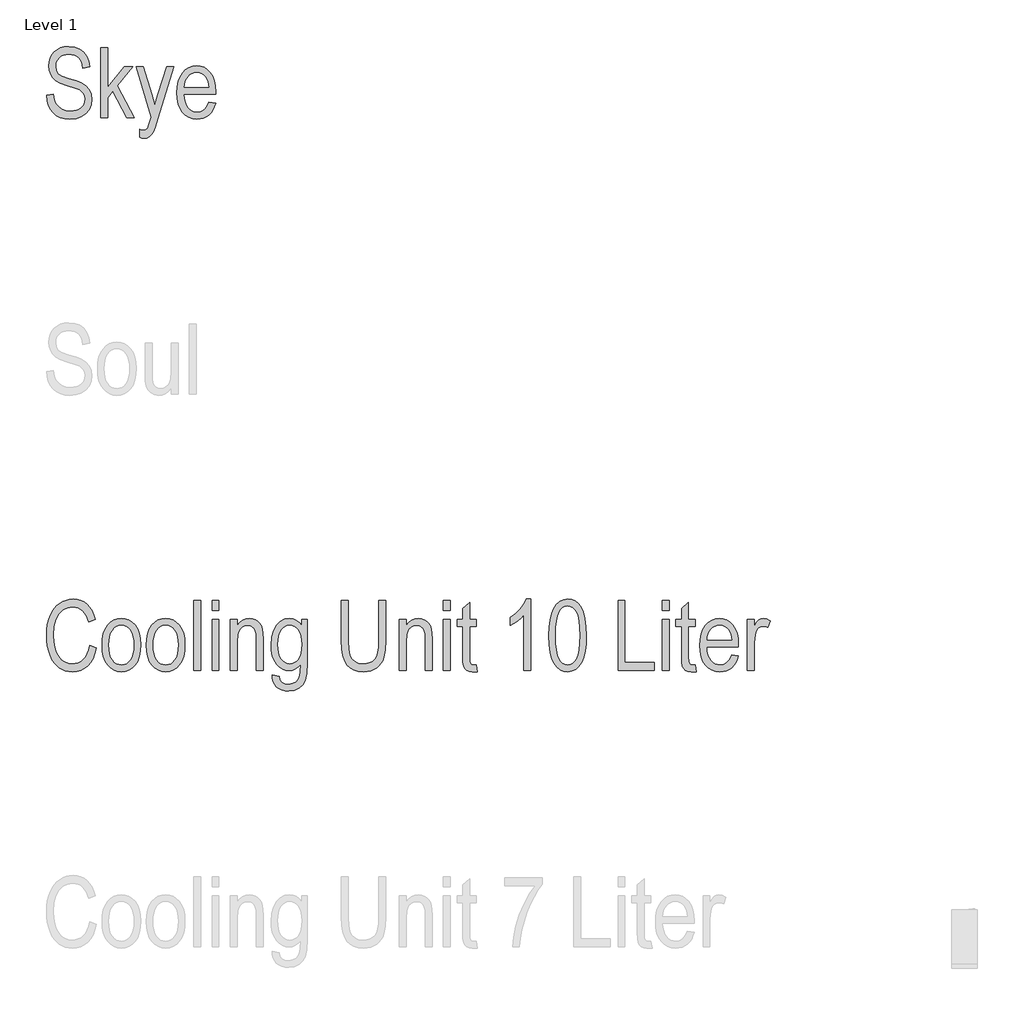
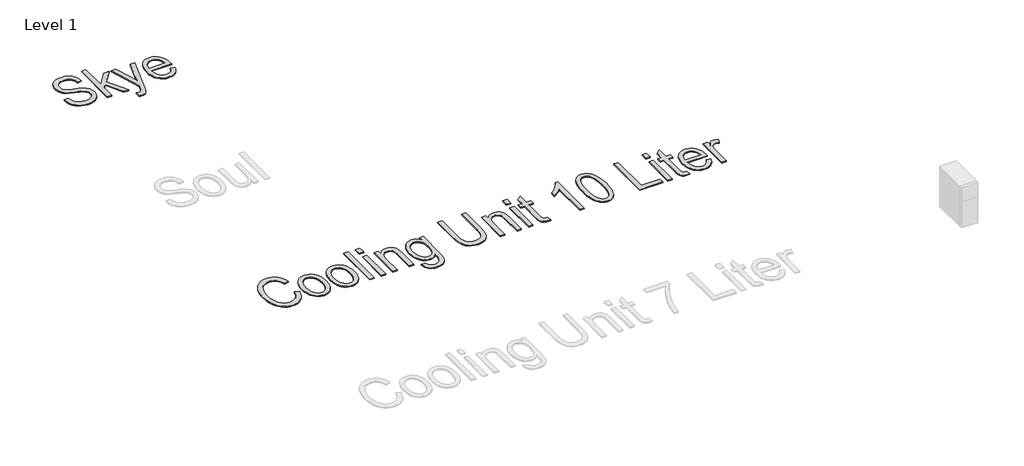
# One storey, part 2 of 3: 2 proxies.
"""IFC4 building model written with IfcOpenShell, lengths in millimetres."""

from ifc_helpers import new_model, si_unit, origin, origin_with_axes, place, context, project, spatial, polyline, outline, extrude, element, save

model = new_model("IFC4")

# Units and contexts
model_context = context("Model", 3, world=origin())
ifc_project = project(units=[si_unit("LENGTHUNIT", "METRE", prefix="MILLI")], contexts=[model_context])

# Site, building, storey
site = spatial("IfcSite", under=ifc_project)
building = spatial("IfcBuilding", under=site)
storey = spatial("IfcBuildingStorey", under=building, Name="Level 1", Elevation=0.0)

# Proxies
placement = place(None, origin())
element("IfcBuildingElementProxy", 1, Name="500mm", ObjectType="500mm", at=placement, inside=storey, context=model_context, shape_type="SweptSolid", body=[
    extrude(outline(polyline([(-29380.882871, 8787.0556777), (-29331.6607147, 8795.2593704), (-29324.7548718, 8756.0514874), (-29312.4974012, 8726.6175352), (-29294.3435265, 8704.473974), (-29269.7484711, 8687.1372639), (-29240.2023591, 8675.9373006), (-29207.1953141, 8672.2039795), (-29183.5976804, 8673.7061205), (-29162.7960318, 8678.2125435), (-29144.7903683, 8685.7232485), (-29129.58069, 8696.2382356), (-29117.4954649, 8709.1566482), (-29108.8631613, 8723.87763), (-29103.6837791, 8740.401181), (-29101.9573184, 8758.7273012), (-29104.4729038, 8779.8454009), (-29112.0196602, 8798.0793898), (-29124.6456561, 8813.3491538), (-29142.3989599, 8825.5745787), (-29174.4927031, 8838.7613738), (-29230.1400172, 8856.9152485), (-29281.1086628, 8875.1812831), (-29314.0355936, 8893.0627696), (-29335.2818759, 8913.1393848), (-29351.2085762, 8937.9908055), (-29361.1587582, 8967.008164), (-29364.4754856, 8999.5825923), (-29362.0480257, 9029.0646131), (-29354.7656461, 9055.7266144), (-29342.6283468, 9079.5685964), (-29325.6361278, 9100.590559), (-29304.534051, 9117.7510178), (-29280.0671784, 9130.0084884), (-29252.2355099, 9137.3629707), (-29221.0390456, 9139.8144649), (-29178.6265951, 9135.3440932), (-29141.8862291, 9121.9329784), (-29111.7793177, 9100.1739652), (-29089.2672312, 9070.6598988), (-29074.8787232, 9034.3361266), (-29069.1425475, 8992.1479958), (-29118.3647038, 8983.9443031), (-29121.7495282, 9007.3817084), (-29127.802155, 9027.5744892), (-29136.5225843, 9044.5226454), (-29147.9108159, 9058.226177), (-29161.9187815, 9068.797244), (-29178.4984124, 9076.3480061), (-29197.6497088, 9080.8784634), (-29219.3726705, 9082.3886158), (-29241.3760319, 9080.910509), (-29260.599431, 9076.4761888), (-29277.0428678, 9069.0856551), (-29290.7063424, 9058.7389078), (-29301.4456491, 9046.0448149), (-29309.1165825, 9031.6122442), (-29313.7191426, 9015.4411956), (-29315.2533292, 8997.5316692), (-29311.2796656, 8966.6075931), (-29299.3586746, 8943.5667529), (-29288.4471223, 8934.057199), (-29271.4789376, 8924.7559419), (-29219.3726705, 8906.7783184), (-29165.8243481, 8890.6272983), (-29131.054791, 8876.7835669), (-29096.9902388, 8854.5919371), (-29072.4752976, 8827.4973192), (-29057.6701959, 8795.1151649), (-29052.735162, 8757.0609262), (-29057.7983786, 8718.2375912), (-29072.9880284, 8683.0354176), (-29096.8780789, 8653.633511), (-29128.0424976, 8632.2109775), (-29166.3851474, 8619.1363422), (-29211.8098913, 8614.7781305), (-29248.1296578, 8617.6822697), (-29280.5638864, 8626.3946875), (-29309.1125768, 8640.9153839), (-29333.7757292, 8661.2443588), (-29353.7602131, 8686.5324018), (-29368.272898, 8715.9303027), (-29377.313784, 8749.4380613), (-29380.882871, 8787.0556777)])), origin_with_axes(), (0.0, 0.0, 1.0), 10.0),
    extrude(outline(polyline([(-28987.1056202, 8622.9818232), (-28987.1056202, 9131.6107721), (-28937.8834639, 9131.6107721), (-28937.8834639, 8844.0969787), (-28817.1353616, 8992.1479958), (-28756.1203969, 8992.1479958), (-28867.8957103, 8854.9925081), (-28745.0966848, 8622.9818232), (-28799.5743318, 8622.9818232), (-28901.0950293, 8814.6149579), (-28937.8834639, 8769.3664652), (-28937.8834639, 8622.9818232), (-28987.1056202, 8622.9818232)])), origin_with_axes(), (0.0, 0.0, 1.0), 10.0),
    extrude(outline(polyline([(-28708.1800676, 8483.5190468), (-28708.1800676, 8540.9448959), (-28694.2722448, 8534.7921264), (-28682.5435278, 8532.7412032), (-28669.4368469, 8534.535761), (-28658.8297285, 8539.9194343), (-28650.3055791, 8549.116543), (-28643.4478047, 8562.3514066), (-28622.8103902, 8628.7500446), (-28732.7911458, 8992.1479958), (-28681.7744316, 8992.1479958), (-28618.9649092, 8792.9520818), (-28597.3020331, 8713.3506258), (-28576.7928013, 8791.6702548), (-28513.086, 8992.1479958), (-28462.0692858, 8992.1479958), (-28575.3827916, 8616.8290536), (-28595.2030414, 8556.8555734), (-28610.312577, 8520.7561209), (-28623.9159659, 8499.9745008), (-28639.2177756, 8485.9545181), (-28656.4583486, 8477.9751451), (-28675.8780275, 8475.3153541), (-28691.0676773, 8477.3662773), (-28708.1800676, 8483.5190468)])), origin_with_axes(), (0.0, 0.0, 1.0), 10.0),
    extrude(outline(polyline([(-28207.7548113, 8737.8335213), (-28158.532655, 8729.6298286), (-28166.5360623, 8702.9197587), (-28177.2152834, 8679.7026674), (-28190.5703183, 8659.9785546), (-28206.6011671, 8643.7474204), (-28225.0114072, 8631.073356), (-28245.5046162, 8622.0204529), (-28268.080794, 8616.5887111), (-28292.7399407, 8614.7781305), (-28323.5598683, 8617.8264753), (-28351.2873884, 8626.9715097), (-28375.9225008, 8642.2132337), (-28397.4652056, 8663.5516474), (-28414.962144, 8690.650271), (-28427.4599571, 8723.1726251), (-28434.958645, 8761.1187097), (-28437.4582076, 8804.4885247), (-28434.9466279, 8849.4045435), (-28427.4118886, 8888.6564893), (-28414.8539899, 8922.2443621), (-28397.2729316, 8950.1681619), (-28375.8463923, 8972.1234548), (-28351.7520506, 8987.8058069), (-28324.9899066, 8997.2152181), (-28295.55996, 9000.3516885), (-28267.363772, 8997.3233723), (-28241.6110667, 8988.2384235), (-28218.301844, 8973.0968422), (-28197.4361041, 8951.8986284), (-28180.2476053, 8924.9642388), (-28167.9701062, 8892.6141302), (-28160.6036067, 8854.8483025), (-28158.1481069, 8811.6667559), (-28158.532655, 8795.2593704), (-28388.2360513, 8795.2593704), (-28385.0915695, 8764.7038196), (-28378.9908741, 8738.1539781), (-28369.9339653, 8715.6098459), (-28357.920843, 8697.0714231), (-28343.6885577, 8682.602801), (-28327.97416, 8672.2680709), (-28310.7776498, 8666.0672328), (-28292.0990272, 8664.0002868), (-28264.0911075, 8668.614864), (-28240.6977649, 8682.4585954), (-28221.9189996, 8705.5314812), (-28207.7548113, 8737.8335213)]), holes=[polyline([(-28384.9033011, 8844.4815268), (-28207.7548113, 8844.4815268), (-28214.9330425, 8886.5895433), (-28229.2895048, 8916.5202035), (-28243.1172134, 8931.6617848), (-28258.7074341, 8942.4772), (-28276.060167, 8948.9664491), (-28295.1754119, 8951.1295322), (-28312.5842247, 8949.326963), (-28328.663142, 8943.9192554), (-28343.4121638, 8934.9064094), (-28356.8312901, 8922.2884249), (-28368.1514247, 8906.6100786), (-28376.6034714, 8888.4161468), (-28382.1874302, 8867.7066295), (-28384.9033011, 8844.4815268)])]), origin_with_axes(), (0.0, 0.0, 1.0), 10.0),
])
element("IfcBuildingElementProxy", 2, Name="500mm", ObjectType="500mm", at=placement, inside=storey, context=model_context, shape_type="SweptSolid", body=[
    extrude(outline(polyline([(-29069.1425475, 4803.4630631), (-29019.9203911, 4787.0556777), (-29030.5835894, 4746.4177564), (-29044.6276063, 4711.2836798), (-29062.0524419, 4681.6534479), (-29082.8580963, 4657.5270605), (-29106.579907, 4638.8244036), (-29132.7532118, 4625.465363), (-29161.3780107, 4617.4499386), (-29192.4543038, 4614.7781305), (-29219.7572186, 4616.5406426), (-29245.0092103, 4621.8281789), (-29268.2102788, 4630.6407394), (-29289.3604241, 4642.9783242), (-29308.5718061, 4659.2134641), (-29325.9565846, 4679.7186902), (-29341.5147597, 4704.4940025), (-29355.2463313, 4733.5394009), (-29366.4623174, 4766.1258464), (-29374.4737361, 4801.5242998), (-29379.2805873, 4839.7347612), (-29380.882871, 4880.7572305), (-29379.284593, 4921.0586722), (-29374.4897589, 4958.1315121), (-29366.4983688, 4991.9757503), (-29355.3104226, 5022.5913868), (-29341.3945884, 5049.8181931), (-29325.2195341, 5073.495941), (-29306.7852597, 5093.6246305), (-29286.0917652, 5110.2042614), (-29263.631753, 5123.1587254), (-29239.8979252, 5132.411914), (-29214.8902818, 5137.9638271), (-29188.6088228, 5139.8144649), (-29160.1682865, 5137.4711249), (-29133.810719, 5130.441105), (-29109.5361204, 5118.7244052), (-29087.3444907, 5102.3210254), (-29067.7806063, 5081.3751713), (-29051.3892437, 5056.0310483), (-29038.1704029, 5026.2886565), (-29028.1240839, 4992.1479958), (-29077.3462402, 4975.7406104), (-29094.9873841, 5022.3991127), (-29106.4637414, 5040.7292387), (-29119.7106222, 5055.7266144), (-29134.7280265, 5067.39124), (-29151.5159543, 5075.7231154), (-29170.0744057, 5080.7222407), (-29190.4033806, 5082.3886158), (-29229.867629, 5077.0690338), (-29263.6597929, 5061.1102878), (-29278.3607462, 5048.9850056), (-29291.5074843, 5033.8874871), (-29313.1383147, 4994.7757411), (-29327.0301147, 4943.7430042), (-29331.6607147, 4880.7572305), (-29329.3053576, 4831.9035994), (-29322.2392863, 4789.5552403), (-29310.4625009, 4753.7121531), (-29293.9750012, 4724.3743379), (-29273.5859407, 4701.5498061), (-29250.1044725, 4685.2465691), (-29223.5305968, 4675.4646269), (-29193.8643134, 4672.2039795), (-29171.5244725, 4674.2388799), (-29150.7789038, 4680.3435809), (-29131.6276074, 4690.5180826), (-29114.0705834, 4704.762385), (-29098.6926653, 4723.1405795), (-29086.0786866, 4745.7167573), (-29076.2286473, 4772.4909185), (-29069.1425475, 4803.4630631)])), origin_with_axes(), (0.0, 0.0, 1.0), 10.0),
    extrude(outline(polyline([(-28978.9019275, 4807.5649095), (-28976.4344105, 4852.3847913), (-28969.0318597, 4891.348326), (-28956.6942749, 4924.4555137), (-28939.4216563, 4951.7063543), (-28918.367648, 4972.988688), (-28894.6858944, 4988.190355), (-28868.3763954, 4997.3113551), (-28839.4391512, 5000.3516885), (-28810.9185007, 4997.3113551), (-28784.8333215, 4988.190355), (-28761.1836135, 4972.988688), (-28739.9693769, 4951.7063543), (-28722.4724385, 4924.6958563), (-28709.9746254, 4892.3096963), (-28702.4759375, 4854.5478743), (-28699.9763749, 4811.4103905), (-28702.4318747, 4764.9081107), (-28709.7983741, 4724.7428632), (-28722.0758733, 4690.9146478), (-28739.264372, 4663.4234647), (-28760.2582947, 4642.1411309), (-28783.9520654, 4626.939464), (-28810.3456843, 4617.8184638), (-28839.4391512, 4614.7781305), (-28868.1160243, 4617.8264753), (-28894.2853234, 4626.9715097), (-28917.9470485, 4642.2132337), (-28939.1011995, 4663.5516474), (-28956.514018, 4690.8425451), (-28968.9517455, 4723.9417213), (-28976.414382, 4762.8491761), (-28978.9019275, 4807.5649095)]), holes=[polyline([(-28929.6797712, 4807.6930922), (-28928.0334246, 4773.6766085), (-28923.094385, 4744.3067476), (-28914.8626523, 4719.5835096), (-28903.3382265, 4699.5068944), (-28889.3783295, 4683.9727536), (-28873.840183, 4672.8769387), (-28856.723787, 4666.2194498), (-28838.0291415, 4664.0002868), (-28820.4120318, 4666.2394783), (-28804.092772, 4672.9570529), (-28789.071362, 4684.1530105), (-28775.3478018, 4699.8273511), (-28763.9074959, 4720.0041091), (-28755.7358488, 4744.7073186), (-28750.8328606, 4773.9369796), (-28749.1985312, 4807.6930922), (-28750.8448777, 4841.597416), (-28755.7839174, 4870.8871627), (-28764.01565, 4895.5623322), (-28775.5400758, 4915.6229246), (-28789.4999729, 4931.1570654), (-28805.0381194, 4942.2528803), (-28822.1545154, 4948.9103692), (-28840.8491609, 4951.1295322), (-28858.6224932, 4948.8983521), (-28875.0258729, 4942.2048118), (-28890.0593001, 4931.0489113), (-28903.7227746, 4915.4306506), (-28915.0789606, 4895.3099725), (-28923.190522, 4870.6468201), (-28928.0574589, 4841.4411934), (-28929.6797712, 4807.6930922)])]), origin_with_axes(), (0.0, 0.0, 1.0), 10.0),
    extrude(outline(polyline([(-28658.9579112, 4807.5649095), (-28656.4903943, 4852.3847913), (-28649.0878434, 4891.348326), (-28636.7502587, 4924.4555137), (-28619.47764, 4951.7063543), (-28598.4236317, 4972.988688), (-28574.7418781, 4988.190355), (-28548.4323792, 4997.3113551), (-28519.4951349, 5000.3516885), (-28490.9744844, 4997.3113551), (-28464.8893052, 4988.190355), (-28441.2395973, 4972.988688), (-28420.0253606, 4951.7063543), (-28402.5284222, 4924.6958563), (-28390.0306091, 4892.3096963), (-28382.5319212, 4854.5478743), (-28380.0323586, 4811.4103905), (-28382.4878584, 4764.9081107), (-28389.8543579, 4724.7428632), (-28402.131857, 4690.9146478), (-28419.3203558, 4663.4234647), (-28440.3142784, 4642.1411309), (-28464.0080491, 4626.939464), (-28490.401668, 4617.8184638), (-28519.4951349, 4614.7781305), (-28548.1720081, 4617.8264753), (-28574.3413072, 4626.9715097), (-28598.0030322, 4642.2132337), (-28619.1571832, 4663.5516474), (-28636.5700017, 4690.8425451), (-28649.0077292, 4723.9417213), (-28656.4703657, 4762.8491761), (-28658.9579112, 4807.5649095)]), holes=[polyline([(-28609.7357549, 4807.6930922), (-28608.0894083, 4773.6766085), (-28603.1503687, 4744.3067476), (-28594.918636, 4719.5835096), (-28583.3942103, 4699.5068944), (-28569.4343132, 4683.9727536), (-28553.8961667, 4672.8769387), (-28536.7797707, 4666.2194498), (-28518.0851252, 4664.0002868), (-28500.4680155, 4666.2394783), (-28484.1487557, 4672.9570529), (-28469.1273457, 4684.1530105), (-28455.4037855, 4699.8273511), (-28443.9634796, 4720.0041091), (-28435.7918326, 4744.7073186), (-28430.8888443, 4773.9369796), (-28429.2545149, 4807.6930922), (-28430.9008615, 4841.597416), (-28435.8399011, 4870.8871627), (-28444.0716338, 4895.5623322), (-28455.5960595, 4915.6229246), (-28469.5559566, 4931.1570654), (-28485.0941031, 4942.2528803), (-28502.2104991, 4948.9103692), (-28520.9051446, 4951.1295322), (-28538.6784769, 4948.8983521), (-28555.0818567, 4942.2048118), (-28570.1152838, 4931.0489113), (-28583.7787584, 4915.4306506), (-28595.1349443, 4895.3099725), (-28603.2465057, 4870.6468201), (-28608.1134426, 4841.4411934), (-28609.7357549, 4807.6930922)])]), origin_with_axes(), (0.0, 0.0, 1.0), 10.0),
    extrude(outline(polyline([(-28314.4028168, 4622.9818232), (-28314.4028168, 5131.6107721), (-28265.1806604, 5131.6107721), (-28265.1806604, 4622.9818232), (-28314.4028168, 4622.9818232)])), origin_with_axes(), (0.0, 0.0, 1.0), 10.0),
    extrude(outline(polyline([(-28183.1437332, 5057.7775376), (-28183.1437332, 5131.6107721), (-28133.9215768, 5131.6107721), (-28133.9215768, 5057.7775376), (-28183.1437332, 5057.7775376)])), origin_with_axes(), (0.0, 0.0, 1.0), 10.0),
    extrude(outline(polyline([(-28183.1437332, 4622.9818232), (-28183.1437332, 4992.1479958), (-28133.9215768, 4992.1479958), (-28133.9215768, 4622.9818232), (-28183.1437332, 4622.9818232)])), origin_with_axes(), (0.0, 0.0, 1.0), 10.0),
    extrude(outline(polyline([(-28051.8846496, 4622.9818232), (-28051.8846496, 4992.1479958), (-28002.6624932, 4992.1479958), (-28002.6624932, 4944.4640318), (-27985.1335092, 4968.9949958), (-27964.0795009, 4986.4438657), (-27939.5966054, 4996.8747328), (-27911.7809598, 5000.3516885), (-27889.685467, 4997.9642858), (-27869.2883951, 4990.8020775), (-27851.6312283, 4979.7783654), (-27837.7554512, 4965.8064512), (-27827.2925384, 4948.0531474), (-27819.8739647, 4925.6852665), (-27815.4516616, 4894.3926651), (-27813.9775605, 4849.8652001), (-27813.9775605, 4622.9818232), (-27863.1997169, 4622.9818232), (-27863.1997169, 4850.8906617), (-27864.8821148, 4886.621589), (-27869.9293086, 4911.2647128), (-27878.5656179, 4928.1848291), (-27891.0153625, 4940.7467336), (-27906.5254691, 4948.5338325), (-27924.3428642, 4951.1295322), (-27941.3190604, 4949.3870486), (-27956.484676, 4944.1595979), (-27969.8397109, 4935.4471801), (-27981.3841652, 4923.2497952), (-27990.6934337, 4906.8223812), (-27997.3429112, 4885.4198762), (-28002.6624932, 4827.6895932), (-28002.6624932, 4622.9818232), (-28051.8846496, 4622.9818232)])), origin_with_axes(), (0.0, 0.0, 1.0), 10.0),
    extrude(outline(polyline([(-27748.3480187, 4590.1670523), (-27699.1258624, 4581.9633596), (-27692.1399053, 4556.599208), (-27678.1038998, 4538.7016987), (-27657.1460285, 4528.0785575), (-27629.3944742, 4524.5375105), (-27598.8869919, 4528.527197), (-27575.3013753, 4540.4962565), (-27558.3812591, 4560.348552), (-27547.8702778, 4587.9879464), (-27544.4093449, 4617.8224695), (-27543.2557006, 4668.8712294), (-27560.8327532, 4648.8747283), (-27580.4927746, 4634.5182661), (-27602.3319019, 4625.8659339), (-27626.4462722, 4622.9818232), (-27652.219006, 4625.8499111), (-27675.7004742, 4634.4541747), (-27696.8906766, 4648.7946142), (-27715.7896132, 4668.8712294), (-27733.6230312, 4697.5120511), (-27746.3611869, 4730.6232445), (-27754.0040803, 4768.2048095), (-27756.5517115, 4810.2567462), (-27751.9852028, 4865.9841745), (-27738.2856769, 4914.2129149), (-27717.1675773, 4952.7798844), (-27690.3453475, 4979.522), (-27658.8925178, 4995.1442664), (-27623.8826182, 5000.3516885), (-27598.0217587, 4997.2112124), (-27574.5322791, 4987.789784), (-27553.5103165, 4972.0874034), (-27535.0520079, 4950.1040706), (-27535.0520079, 4992.1479958), (-27494.0335443, 4992.1479958), (-27494.0335443, 4674.3830854), (-27497.4784543, 4601.7034952), (-27507.8131844, 4553.3786177), (-27525.983082, 4521.0285091), (-27552.9334944, 4496.2732254), (-27587.4627089, 4480.5548219), (-27628.3690126, 4475.3153541), (-27655.844173, 4477.2180661), (-27679.9465261, 4482.9262019), (-27700.6760719, 4492.4397615), (-27718.0328105, 4505.7587451), (-27731.6802622, 4522.4505359), (-27741.2819475, 4542.0825174), (-27746.8378663, 4564.6546895), (-27748.3480187, 4590.1670523)]), holes=[polyline([(-27707.3295551, 4814.1022271), (-27705.7753399, 4779.6210811), (-27701.1126942, 4750.1390604), (-27693.3416181, 4725.6561649), (-27682.4621115, 4706.1723947), (-27669.3313963, 4691.3112131), (-27654.8066943, 4680.6960833), (-27638.8880054, 4674.3270055), (-27621.5753296, 4672.2039795), (-27604.2386196, 4674.2829427), (-27588.2478279, 4680.5198321), (-27573.6029546, 4690.9146478), (-27560.3039996, 4705.4673899), (-27549.2562532, 4724.5545949), (-27541.3650058, 4748.5527995), (-27536.6302574, 4777.4620038), (-27535.0520079, 4811.2822078), (-27536.6743202, 4844.4494811), (-27541.541257, 4873.0662686), (-27549.6528184, 4897.1325703), (-27561.0090044, 4916.6483862), (-27574.6804904, 4931.7338876), (-27589.7379518, 4942.5092457), (-27606.1813886, 4948.9744606), (-27624.0108009, 4951.1295322), (-27640.1017353, 4948.9744606), (-27655.1752195, 4942.5092457), (-27669.2312536, 4931.7338876), (-27682.2698375, 4916.6483862), (-27693.233464, 4897.3088215), (-27701.0646257, 4873.7712734), (-27705.7633228, 4846.035742), (-27707.3295551, 4814.1022271)])]), origin_with_axes(), (0.0, 0.0, 1.0), 10.0),
    extrude(outline(polyline([(-26977.2009026, 5131.6107721), (-26927.9787462, 5131.6107721), (-26927.9787462, 4838.0723918), (-26931.4877476, 4770.8565891), (-26942.0147518, 4716.8756501), (-26950.4708042, 4694.4436778), (-26961.8029559, 4674.5112681), (-26976.0112069, 4657.0784211), (-26993.0955572, 4642.1451367), (-27012.87575, 4630.1720714), (-27035.1715281, 4621.619882), (-27059.9828918, 4616.4885683), (-27087.3098409, 4614.7781305), (-27125.0316057, 4617.8545152), (-27157.6981654, 4627.0836695), (-27185.3095199, 4642.4655934), (-27207.8656691, 4664.0002868), (-27225.3906475, 4693.338102), (-27237.9084892, 4732.1293912), (-27245.4191942, 4780.3741545), (-27247.9227625, 4838.0723918), (-27247.9227625, 5131.6107721), (-27198.7006062, 5131.6107721), (-27198.7006062, 4836.277834), (-27195.960701, 4776.4004908), (-27187.7409854, 4735.7185068), (-27173.304409, 4708.3515006), (-27151.9139211, 4688.4190909), (-27124.3225952, 4676.2577574), (-27091.2835046, 4672.2039795), (-27063.3476876, 4674.2989655), (-27039.5297399, 4680.5839235), (-27019.8296614, 4691.0588534), (-27004.247452, 4705.7237553), (-26992.4145867, 4726.4533011), (-26983.96254, 4755.1221628), (-26978.8913119, 4791.7303405), (-26977.2009026, 4836.277834), (-26977.2009026, 5131.6107721)])), origin_with_axes(), (0.0, 0.0, 1.0), 10.0),
    extrude(outline(polyline([(-26829.5344335, 4622.9818232), (-26829.5344335, 4992.1479958), (-26780.3122772, 4992.1479958), (-26780.3122772, 4944.4640318), (-26762.7832931, 4968.9949958), (-26741.7292848, 4986.4438657), (-26717.2463894, 4996.8747328), (-26689.4307437, 5000.3516885), (-26667.335251, 4997.9642858), (-26646.9381791, 4990.8020775), (-26629.2810123, 4979.7783654), (-26615.4052351, 4965.8064512), (-26604.9423224, 4948.0531474), (-26597.5237487, 4925.6852665), (-26593.1014456, 4894.3926651), (-26591.6273445, 4849.8652001), (-26591.6273445, 4622.9818232), (-26640.8495009, 4622.9818232), (-26640.8495009, 4850.8906617), (-26642.5318988, 4886.621589), (-26647.5790926, 4911.2647128), (-26656.2154019, 4928.1848291), (-26668.6651465, 4940.7467336), (-26684.1752531, 4948.5338325), (-26701.9926482, 4951.1295322), (-26718.9688444, 4949.3870486), (-26734.1344599, 4944.1595979), (-26747.4894949, 4935.4471801), (-26759.0339492, 4923.2497952), (-26768.3432177, 4906.8223812), (-26774.9926952, 4885.4198762), (-26780.3122772, 4827.6895932), (-26780.3122772, 4622.9818232), (-26829.5344335, 4622.9818232)])), origin_with_axes(), (0.0, 0.0, 1.0), 10.0),
    extrude(outline(polyline([(-26509.5904173, 5057.7775376), (-26509.5904173, 5131.6107721), (-26460.3682609, 5131.6107721), (-26460.3682609, 5057.7775376), (-26509.5904173, 5057.7775376)])), origin_with_axes(), (0.0, 0.0, 1.0), 10.0),
    extrude(outline(polyline([(-26509.5904173, 4622.9818232), (-26509.5904173, 4992.1479958), (-26460.3682609, 4992.1479958), (-26460.3682609, 4622.9818232), (-26509.5904173, 4622.9818232)])), origin_with_axes(), (0.0, 0.0, 1.0), 10.0),
    extrude(outline(polyline([(-26271.6833282, 4664.0002868), (-26263.4796355, 4614.7781305), (-26300.6526182, 4614.7781305), (-26324.0459607, 4617.4539443), (-26342.440178, 4625.4813858), (-26355.83527, 4638.1554501), (-26364.2312368, 4654.7711325), (-26368.6535399, 4682.5547325), (-26370.1276409, 4728.7325497), (-26370.1276409, 4942.9258395), (-26411.1461046, 4942.9258395), (-26411.1461046, 4992.1479958), (-26370.1276409, 4992.1479958), (-26370.1276409, 5074.1849231), (-26320.9054846, 5115.2033867), (-26320.9054846, 4992.1479958), (-26271.6833282, 4992.1479958), (-26271.6833282, 4942.9258395), (-26320.9054846, 4942.9258395), (-26320.9054846, 4717.4524722), (-26319.8159317, 4691.7197954), (-26316.5472728, 4677.0749221), (-26307.6385753, 4667.2689456), (-26293.2180216, 4664.0002868), (-26271.6833282, 4664.0002868)])), origin_with_axes(), (0.0, 0.0, 1.0), 10.0),
    extrude(outline(polyline([(-25877.9060774, 4622.9818232), (-25927.1282338, 4622.9818232), (-25927.1282338, 5024.9627667), (-25947.0926891, 5004.3573979), (-25972.8894573, 4983.3033896), (-26000.4166918, 4964.6207612), (-26025.5725465, 4951.1295322), (-26025.5725465, 5008.5553813), (-25987.2939881, 5036.3069355), (-25953.7261438, 5069.5703459), (-25927.1442566, 5105.1410448), (-25909.8235694, 5139.8144649), (-25877.9060774, 5139.8144649), (-25877.9060774, 4622.9818232)])), origin_with_axes(), (0.0, 0.0, 1.0), 10.0),
    extrude(outline(polyline([(-25746.6469938, 4877.168115), (-25744.4999336, 4937.9187028), (-25738.058753, 4990.8341231), (-25727.323452, 5035.914376), (-25712.2940306, 5073.1594615), (-25693.0746371, 5102.3210254), (-25669.7694202, 5123.150714), (-25642.3783798, 5135.6485271), (-25610.9015158, 5139.8144649), (-25582.7974591, 5136.4416576), (-25557.8338785, 5126.3232358), (-25536.010774, 5109.4591995), (-25517.3281456, 5085.8495486), (-25499.214328, 5048.3400864), (-25486.2758868, 5001.0566934), (-25478.5128221, 4943.9993696), (-25475.9251339, 4877.168115), (-25478.060177, 4816.6338354), (-25484.4653062, 4763.8546092), (-25495.1405216, 4718.8304362), (-25510.0858231, 4681.5613165), (-25529.2451309, 4652.3436726), (-25552.562365, 4631.473927), (-25580.0375253, 4618.9520796), (-25611.670612, 4614.7781305), (-25639.9989884, 4618.4593773), (-25665.6355282, 4629.503118), (-25688.5802313, 4647.9093524), (-25708.8330977, 4673.6780806), (-25725.3766773, 4708.483689), (-25737.1935198, 4754.0005642), (-25744.2836253, 4810.2287062), (-25746.6469938, 4877.168115)]), holes=[polyline([(-25697.4248375, 4877.2962977), (-25695.8906508, 4819.0773181), (-25691.2880908, 4771.3212514), (-25683.6171574, 4734.0280975), (-25672.8778507, 4707.1978563), (-25659.7431297, 4688.2989196), (-25644.8859538, 4674.7996792), (-25628.3063229, 4666.7001349), (-25610.0042369, 4664.0002868), (-25592.6675269, 4666.7321806), (-25576.8049179, 4674.9278619), (-25562.4164099, 4688.5873307), (-25549.502003, 4707.7105871), (-25538.8468162, 4734.7010566), (-25531.2359685, 4771.9621649), (-25526.6694598, 4819.4939119), (-25525.1472903, 4877.2962977), (-25526.6814769, 4935.6714998), (-25531.284037, 4983.5116865), (-25538.9549704, 5020.8168575), (-25549.6942771, 5047.587013), (-25562.8690551, 5066.4018298), (-25577.8464023, 5079.8409846), (-25594.6263187, 5087.9044775), (-25613.2088044, 5090.5923085), (-25630.4213374, 5087.8604147), (-25646.1677808, 5079.6647334), (-25660.4481346, 5066.0052646), (-25673.2623988, 5046.8820082), (-25683.8334657, 5019.8915387), (-25691.3842278, 4982.6304304), (-25695.9146851, 4935.0986834), (-25697.4248375, 4877.2962977)])]), origin_with_axes(), (0.0, 0.0, 1.0), 10.0),
    extrude(outline(polyline([(-25246.2217376, 4622.9818232), (-25246.2217376, 5131.6107721), (-25196.9995813, 5131.6107721), (-25196.9995813, 4680.4076723), (-24983.7035704, 4680.4076723), (-24983.7035704, 4622.9818232), (-25246.2217376, 4622.9818232)])), origin_with_axes(), (0.0, 0.0, 1.0), 10.0),
    extrude(outline(polyline([(-24926.2777213, 4622.9818232), (-24926.2777213, 4992.1479958), (-24877.055565, 4992.1479958), (-24877.055565, 4622.9818232), (-24926.2777213, 4622.9818232)])), origin_with_axes(), (0.0, 0.0, 1.0), 10.0),
    extrude(outline(polyline([(-24926.2777213, 5057.7775376), (-24926.2777213, 5131.6107721), (-24877.055565, 5131.6107721), (-24877.055565, 5057.7775376), (-24926.2777213, 5057.7775376)])), origin_with_axes(), (0.0, 0.0, 1.0), 10.0),
    extrude(outline(polyline([(-24688.3706323, 4664.0002868), (-24680.1669396, 4614.7781305), (-24717.3399222, 4614.7781305), (-24740.7332648, 4617.4539443), (-24759.1274821, 4625.4813858), (-24772.5225741, 4638.1554501), (-24780.9185409, 4654.7711325), (-24785.340844, 4682.5547325), (-24786.814945, 4728.7325497), (-24786.814945, 4942.9258395), (-24827.8334086, 4942.9258395), (-24827.8334086, 4992.1479958), (-24786.814945, 4992.1479958), (-24786.814945, 5074.1849231), (-24737.5927887, 5115.2033867), (-24737.5927887, 4992.1479958), (-24688.3706323, 4992.1479958), (-24688.3706323, 4942.9258395), (-24737.5927887, 4942.9258395), (-24737.5927887, 4717.4524722), (-24736.5032357, 4691.7197954), (-24733.2345769, 4677.0749221), (-24724.3258793, 4667.2689456), (-24709.9053257, 4664.0002868), (-24688.3706323, 4664.0002868)])), origin_with_axes(), (0.0, 0.0, 1.0), 10.0),
    extrude(outline(polyline([(-24425.8524651, 4737.8335213), (-24376.6303088, 4729.6298286), (-24384.633716, 4702.9197587), (-24395.3129371, 4679.7026674), (-24408.667972, 4659.9785546), (-24424.6988208, 4643.7474204), (-24443.1090609, 4631.073356), (-24463.6022699, 4622.0204529), (-24486.1784477, 4616.5887111), (-24510.8375944, 4614.7781305), (-24541.6575221, 4617.8264753), (-24569.3850421, 4626.9715097), (-24594.0201546, 4642.2132337), (-24615.5628594, 4663.5516474), (-24633.0597978, 4690.650271), (-24645.5576109, 4723.1726251), (-24653.0562988, 4761.1187097), (-24655.5558614, 4804.4885247), (-24653.0442817, 4849.4045435), (-24645.5095424, 4888.6564893), (-24632.9516436, 4922.2443621), (-24615.3705853, 4950.1681619), (-24593.9440461, 4972.1234548), (-24569.8497044, 4987.8058069), (-24543.0875603, 4997.2152181), (-24513.6576138, 5000.3516885), (-24485.4614258, 4997.3233723), (-24459.7087204, 4988.2384235), (-24436.3994978, 4973.0968422), (-24415.5337579, 4951.8986284), (-24398.3452591, 4924.9642388), (-24386.06776, 4892.6141302), (-24378.7012605, 4854.8483025), (-24376.2457607, 4811.6667559), (-24376.6303088, 4795.2593704), (-24606.3337051, 4795.2593704), (-24603.1892232, 4764.7038196), (-24597.0885279, 4738.1539781), (-24588.0316191, 4715.6098459), (-24576.0184968, 4697.0714231), (-24561.7862115, 4682.602801), (-24546.0718138, 4672.2680709), (-24528.8753036, 4666.0672328), (-24510.1966809, 4664.0002868), (-24482.1887612, 4668.614864), (-24458.7954187, 4682.4585954), (-24440.0166533, 4705.5314812), (-24425.8524651, 4737.8335213)]), holes=[polyline([(-24603.0009549, 4844.4815268), (-24425.8524651, 4844.4815268), (-24433.0306962, 4886.5895433), (-24447.3871585, 4916.5202035), (-24461.2148671, 4931.6617848), (-24476.8050879, 4942.4772), (-24494.1578207, 4948.9664491), (-24513.2730657, 4951.1295322), (-24530.6818785, 4949.326963), (-24546.7607958, 4943.9192554), (-24561.5098176, 4934.9064094), (-24574.9289438, 4922.2884249), (-24586.2490784, 4906.6100786), (-24594.7011251, 4888.4161468), (-24600.285084, 4867.7066295), (-24603.0009549, 4844.4815268)])]), origin_with_axes(), (0.0, 0.0, 1.0), 10.0),
    extrude(outline(polyline([(-24311.000767, 4622.9818232), (-24311.000767, 4992.1479958), (-24261.7786106, 4992.1479958), (-24261.7786106, 4943.1822048), (-24245.3071338, 4971.9592207), (-24230.2456667, 4989.071611), (-24214.9919255, 4997.5316692), (-24197.9436266, 5000.3516885), (-24172.6916349, 4996.2498422), (-24146.9269125, 4983.9443031), (-24163.3342979, 4934.7221467), (-24182.6898854, 4940.8749163), (-24201.5327422, 4942.9258395), (-24217.603648, 4939.9936602), (-24232.2324985, 4931.1971225), (-24244.0733753, 4917.1450941), (-24251.7803601, 4898.446443), (-24259.279048, 4860.7286838), (-24261.7786106, 4820.6395448), (-24261.7786106, 4622.9818232), (-24311.000767, 4622.9818232)])), origin_with_axes(), (0.0, 0.0, 1.0), 10.0),
])

save(model, "model.ifc")
